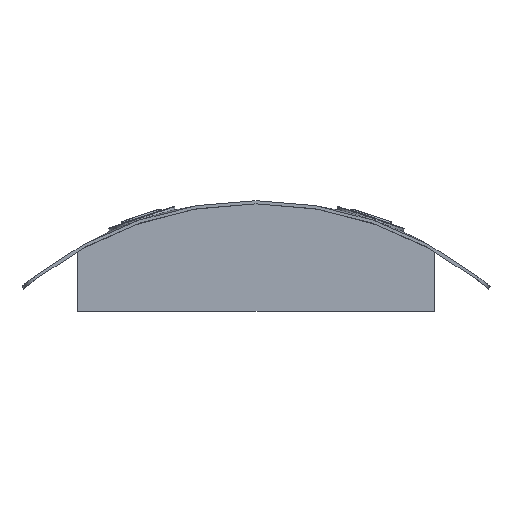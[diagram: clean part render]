
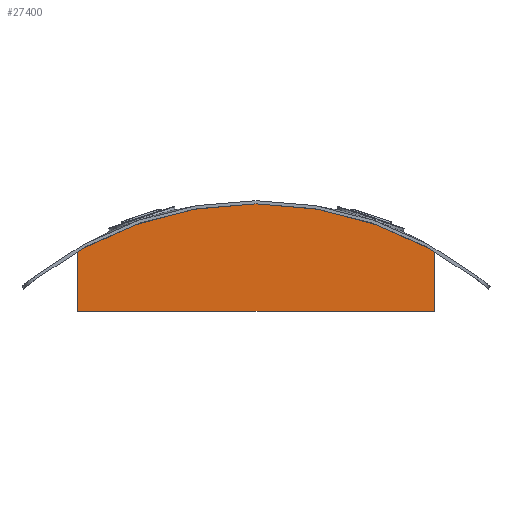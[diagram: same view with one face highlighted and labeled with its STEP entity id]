
A CAD part, left-side view. The second image highlights one B-rep face of the part: STEP entity #27400.
In plain terms, the highlighted planar face has unit normal (-1, 0, 0).
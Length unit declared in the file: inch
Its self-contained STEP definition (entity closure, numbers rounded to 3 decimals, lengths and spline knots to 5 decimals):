
#27334=CARTESIAN_POINT('',(-6.49606,-4.52756,1.52917));
#27335=VERTEX_POINT('',#27334);
#27344=CARTESIAN_POINT('',(-6.49606,-4.52756,0.));
#27345=VERTEX_POINT('',#27344);
#27346=CARTESIAN_POINT('',(-6.49606,-4.52756,0.));
#27347=DIRECTION('',(0.0,0.0,1.0));
#27348=VECTOR('',#27347,1.52917);
#27349=LINE('',#27346,#27348);
#27350=EDGE_CURVE('',#27345,#27335,#27349,.T.);
#27369=CARTESIAN_POINT('',(-6.49606,0.,1.09722));
#27370=DIRECTION('',(-1.0,0.0,0.0));
#27371=DIRECTION('',(0.0,-1.0,0.0));
#27372=AXIS2_PLACEMENT_3D('',#27369,#27370,#27371);
#27373=PLANE('',#27372);
#27374=CARTESIAN_POINT('',(-6.49606,4.52756,1.52917));
#27375=VERTEX_POINT('',#27374);
#27376=CARTESIAN_POINT('',(-6.49606,0.,-6.40565));
#27377=DIRECTION('',(1.0,0.,0.));
#27378=DIRECTION('',(0.,-0.646,0.763));
#27379=AXIS2_PLACEMENT_3D('',#27376,#27377,#27378);
#27380=CIRCLE('',#27379,9.13565);
#27381=EDGE_CURVE('',#27375,#27335,#27380,.T.);
#27382=ORIENTED_EDGE('',*,*,#27381,.F.);
#27383=CARTESIAN_POINT('',(-6.49606,4.52756,0.));
#27384=VERTEX_POINT('',#27383);
#27385=CARTESIAN_POINT('',(-6.49606,4.52756,1.52917));
#27386=DIRECTION('',(0.0,0.0,-1.0));
#27387=VECTOR('',#27386,1.52917);
#27388=LINE('',#27385,#27387);
#27389=EDGE_CURVE('',#27375,#27384,#27388,.T.);
#27390=ORIENTED_EDGE('',*,*,#27389,.T.);
#27391=CARTESIAN_POINT('',(-6.49606,4.52756,0.));
#27392=DIRECTION('',(0.0,-1.0,0.0));
#27393=VECTOR('',#27392,9.05512);
#27394=LINE('',#27391,#27393);
#27395=EDGE_CURVE('',#27384,#27345,#27394,.T.);
#27396=ORIENTED_EDGE('',*,*,#27395,.T.);
#27397=ORIENTED_EDGE('',*,*,#27350,.T.);
#27398=EDGE_LOOP('',(#27382,#27390,#27396,#27397));
#27399=FACE_OUTER_BOUND('',#27398,.T.);
#27400=ADVANCED_FACE('',(#27399),#27373,.T.);
